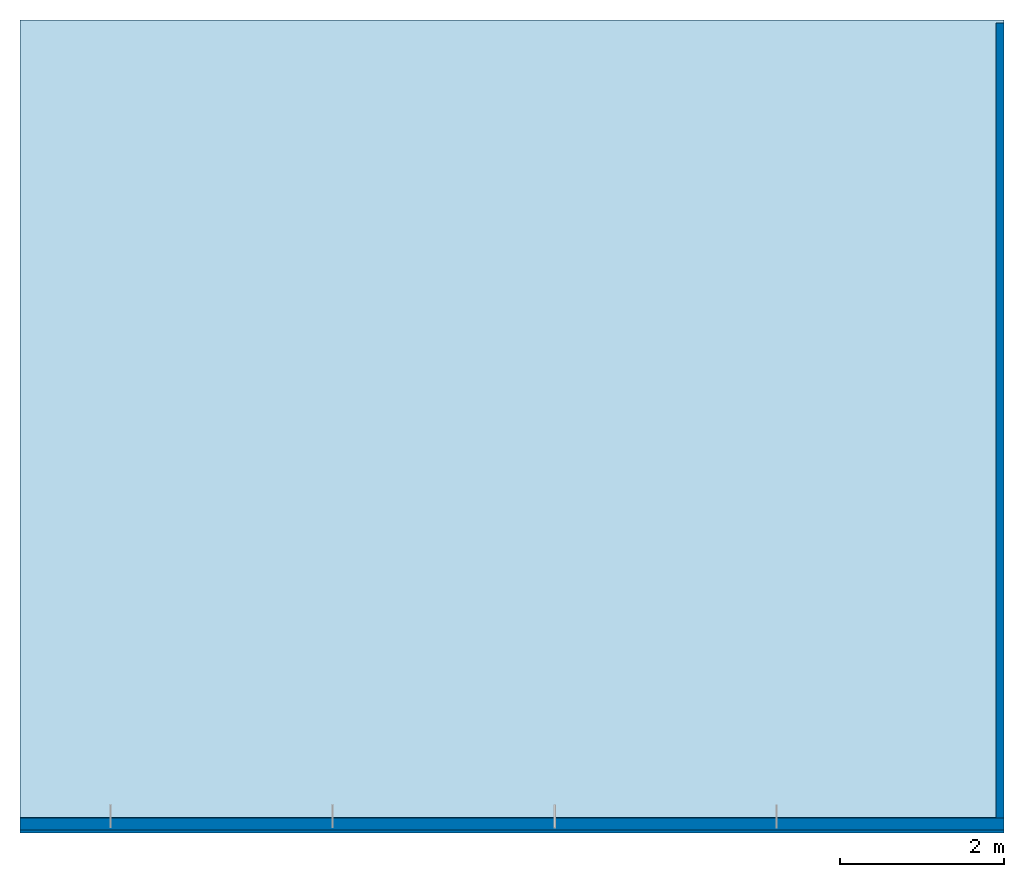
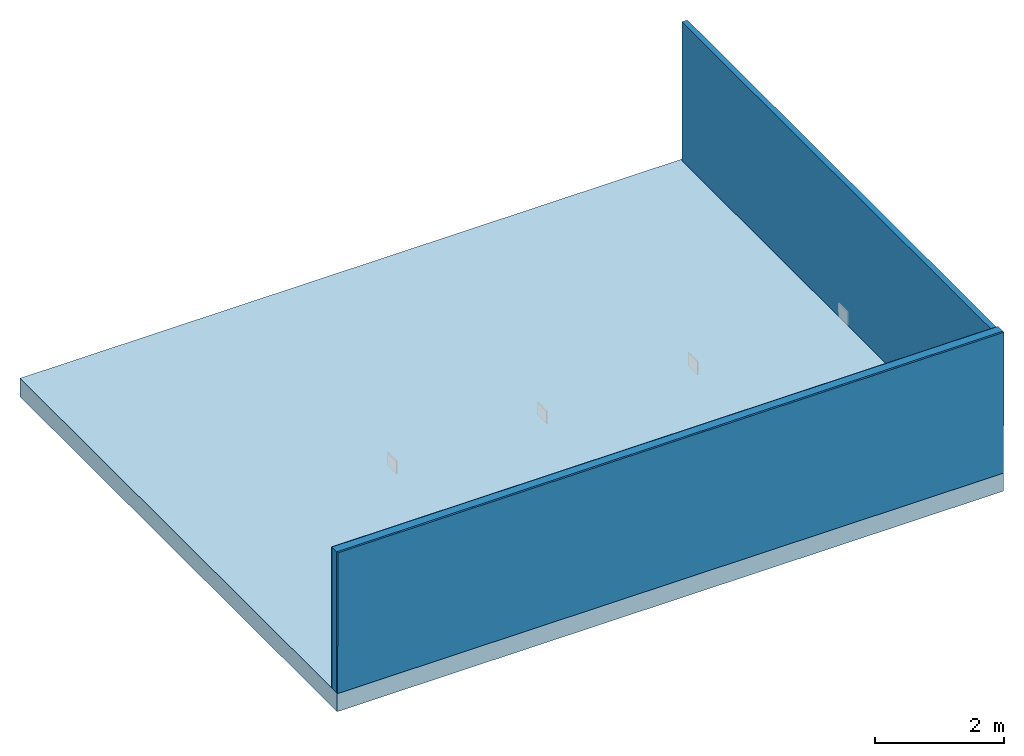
# One storey, part 1 of 2: 3 walls, 1 slab.
"""IFC2X3 building model written with IfcOpenShell, lengths in millimetres."""

from ifc_helpers import new_model, entity, si_unit, converted_unit, derived_unit, direction, frame, frame_2d, origin, origin_with_axes, place, context, subcontext, project, spatial, rectangle, extrude, faceted_brep, material, layer, layer_set, layer_usage, type_object, element, save


model = new_model("IFC2X3")

# Units and contexts
model_context = context("Model", 3, precision=0.01, world=origin(), true_north=direction((6.12303176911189e-17, 1.0)))
plan_context = context("Plan", 3, precision=1e-05, world=origin_with_axes())
body_context = subcontext(model_context, "Body", "Model", "MODEL_VIEW")
ifc_project = project(units=[converted_unit("PLANEANGLEUNIT", "DEGREE", entity("IfcPositiveLengthMeasure", 0.0174532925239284), si_unit("PLANEANGLEUNIT", "RADIAN"), dimensions=[0, 0, 0, 0, 0, 0, 0]), si_unit("AREAUNIT", "SQUARE_METRE"), si_unit("LENGTHUNIT", "METRE", prefix="MILLI"), si_unit("MASSUNIT", "GRAM", prefix="KILO"), si_unit("POWERUNIT", "WATT"), si_unit("PRESSUREUNIT", "PASCAL"), si_unit("FORCEUNIT", "NEWTON", prefix="KILO"), si_unit("ELECTRICVOLTAGEUNIT", "VOLT"), si_unit("ELECTRICCURRENTUNIT", "AMPERE"), si_unit("THERMODYNAMICTEMPERATUREUNIT", "DEGREE_CELSIUS"), si_unit("TIMEUNIT", "SECOND"), si_unit("VOLUMEUNIT", "CUBIC_METRE"), derived_unit("LINEARVELOCITYUNIT", [(si_unit("LENGTHUNIT", "METRE"), 1), (si_unit("TIMEUNIT", "SECOND"), -1)]), derived_unit("VOLUMETRICFLOWRATEUNIT", [(si_unit("VOLUMEUNIT", "CUBIC_METRE"), 1), (si_unit("TIMEUNIT", "SECOND"), -1)]), derived_unit("THERMALTRANSMITTANCEUNIT", [(si_unit("POWERUNIT", "WATT"), 1), (si_unit("THERMODYNAMICTEMPERATUREUNIT", "KELVIN"), -1), (si_unit("AREAUNIT", "SQUARE_METRE"), -1)]), derived_unit("SOUNDPRESSUREUNIT", [(si_unit("PRESSUREUNIT", "PASCAL"), 1)])], contexts=[model_context, plan_context])

# Site, building, storey
site_placement = place(None, frame((2314154.5009392, 1029894.10887124, 0.0), z_axis=(0.0, 0.0, 1.0), x_axis=(1.0, 0.0, 0.0)))
site = spatial("IfcSite", under=ifc_project, at=site_placement, Name="Default", CompositionType="ELEMENT")
building_placement = place(site_placement, origin_with_axes())
building = spatial("IfcBuilding", under=site, at=building_placement, CompositionType="ELEMENT")
storey_placement = place(building_placement, frame((0.0, 0.0, 15370.0), z_axis=(0.0, 0.0, 1.0), x_axis=(1.0, 0.0, 0.0)))
storey = spatial("IfcBuildingStorey", under=building, at=storey_placement, Name="XX - C +15,37 TA E2", CompositionType="ELEMENT", Elevation=15370.0)

# Slab
ifc_material_1 = material(Name="Værnes_Aluminium")
ifc_layer_1 = layer(ifc_material_1, 70.0)
ifc_material_2 = material(Name="_NSW Betong")
ifc_layer_2 = layer(ifc_material_2, 280.0)
ifc_layer_set_1 = layer_set([ifc_layer_1, ifc_layer_2], Name="Floor:NSW Generic 350 mm")
slab_type = type_object("IfcSlabType", Name="Floor:NSW Generic 350 mm", PredefinedType="FLOOR", material=ifc_layer_set_1)
slab_placement = place(storey_placement, frame((-4621.66605264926, -24613.4514097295, -350.0), z_axis=(0.0, 0.0, 1.0), x_axis=(1.0, 0.0, 0.0)))
element("IfcSlab", 1, at=slab_placement, inside=storey, type_object=slab_type, Name="Floor:NSW Generic 350 mm", ObjectType="Floor:NSW Generic 350 mm", PredefinedType="FLOOR", context=body_context, shape_type="Brep", body=[
    faceted_brep([(123782.652190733, 6099.18000000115, 350.0), (123782.652190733, 15964.0000000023, 350.0), (135746.999999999, 15964.0000000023, 350.0), (135746.999999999, 6099.18000000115, 350.0), (123782.652190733, 15964.0000000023, -1.02318153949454e-12), (123782.652190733, 6099.18000000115, -1.02318153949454e-12), (135746.999999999, 6099.18000000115, -5.6843418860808e-13), (135746.999999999, 15964.0000000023, -1.02318153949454e-12)], [[[0, 1, 2, 3]], [[4, 5, 6, 7]], [[3, 2, 7, 6]], [[2, 1, 4, 7]], [[1, 0, 5, 4]], [[0, 3, 6, 5]]], orient=[[False], [False], [False], [False], [False], [False]]),
])

# Walls
ifc_material_3 = material(Name="Existing - Bridget key")
ifc_layer_3 = layer(ifc_material_3, 150.0)
ifc_layer_set_2 = layer_set([ifc_layer_3], Name="Basic Wall:V_Existing 150mm")
wall_type_1 = type_object("IfcWallType", Name="Basic Wall:V_Existing 150mm", PredefinedType="STANDARD", material=ifc_layer_set_2)
wall_1_placement = place(storey_placement, frame((131125.33394735, -18424.4514097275, 0.0), z_axis=(0.0, 0.0, 1.0), x_axis=(-1.0, 0.0, 0.0)))
element("IfcWall", 2, at=wall_1_placement, inside=storey, type_object=wall_type_1, Name="Basic Wall:V_Existing 150mm", ObjectType="Basic Wall:V_Existing 150mm", context=body_context, shape_type="Brep", body=[
    faceted_brep([(11964.3478092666, 75.0000000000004, 0.0), (11964.3478092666, 75.0000000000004, 2678.18549280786), (0.0, 75.0000000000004, 2678.18549280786), (0.0, 75.0000000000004, 0.0), (0.0, -75.0000000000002, 2678.18549280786), (0.0, -75.0000000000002, 0.0), (11964.3478092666, -75.0000000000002, 2678.18549280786), (11964.3478092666, -75.0000000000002, 0.0)], [[[0, 1, 2, 3]], [[3, 2, 4, 5]], [[6, 7, 5, 4]], [[7, 0, 3, 5]], [[1, 6, 4, 2]], [[7, 6, 1, 0]]], orient=[[False], [False], [False], [False], [False], [False]]),
])
ifc_layer_4 = layer(ifc_material_3, 100.0)
ifc_layer_set_3 = layer_set([ifc_layer_4], Name="Basic Wall:V_Existing 100mm")
ifc_layer_usage = layer_usage(ifc_layer_set_3, "AXIS2", "NEGATIVE", 50.0)
wall_type_2 = type_object("IfcWallType", Name="Basic Wall:V_Existing 100mm", PredefinedType="STANDARD", material=ifc_layer_set_3)
wall_2_placement = place(storey_placement, frame((131075.33394735, -18349.4514097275, 0.0), z_axis=(0.0, 0.0, 1.0), x_axis=(0.0, 1.0, 0.0)))
element("IfcWallStandardCase", 3, at=wall_2_placement, inside=storey, type_object=wall_type_2, material=ifc_layer_usage, Name="Basic Wall:V_Existing 100mm", ObjectType="Basic Wall:V_Existing 100mm", context=body_context, shape_type="SweptSolid", body=[
    extrude(rectangle(XDim=9662.19949999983, YDim=100.000000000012, at=frame_2d((4831.09974999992, 0.0), x_axis=(-1.0, 0.0))), origin(), (0.0, 0.0, 1.0), 2636.59907172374),
])
ifc_material_4 = material(Name="Værnes_Glass 05_Silketrykket")
ifc_layer_5 = layer(ifc_material_4, 10.0)
ifc_material_5 = material(Name="Værnes_Malt")
ifc_layer_6 = layer(ifc_material_5, 2.0)
ifc_material_6 = material(Name="Værnes_Gipsplate")
ifc_layer_7 = layer(ifc_material_6, 13.0)
ifc_material_7 = material(Name="Værnes_Stålstender")
ifc_layer_8 = layer(ifc_material_7, 150.0)
ifc_layer_9 = layer(ifc_material_6, 13.0)
ifc_layer_10 = layer(ifc_material_5, 2.0)
ifc_layer_set_4 = layer_set([ifc_layer_5, ifc_layer_6, ifc_layer_7, ifc_layer_8, ifc_layer_9, ifc_layer_10], Name="Basic Wall:242_Værnes Innervegg 38_150mm")
wall_type_3 = type_object("IfcWallType", Name="Basic Wall:242_Værnes Innervegg 38_150mm", PredefinedType="STANDARD", material=ifc_layer_set_4)
wall_3_placement = place(storey_placement, frame((117110.333947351, -18439.4514097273, 0.0), z_axis=(0.0, 0.0, 1.0), x_axis=(1.0, 0.0, 0.0)))
element("IfcWall", 4, at=wall_3_placement, inside=storey, type_object=wall_type_3, Name="Basic Wall:242_Værnes Innervegg 38_150mm", ObjectType="Basic Wall:242_Værnes Innervegg 38_150mm", context=body_context, shape_type="Brep", body=[
    faceted_brep([(14014.9999999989, 95.0000000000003, 0.0), (14014.9999999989, 95.0000000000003, 2678.18549280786), (2050.65219073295, 95.0000000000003, 2678.18549280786), (2050.65219073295, 95.0000000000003, 0.0), (2050.65219073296, -95.0, 900.0), (2050.65219073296, -94.9999999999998, 2678.18549280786), (14014.9999999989, -94.9999999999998, 2678.18549280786), (14014.9999999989, -95.0, 900.0), (14014.9999999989, -85.0, 1.15463194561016e-14), (2050.65219073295, -85.0, 1.15463194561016e-14), (14014.9999999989, -85.0, 900.0), (2050.65219073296, -85.0, 900.0)], [[[0, 1, 2, 3]], [[4, 5, 6, 7]], [[8, 0, 3, 9]], [[1, 6, 5, 2]], [[7, 10, 11, 4]], [[10, 8, 9, 11]], [[8, 10, 7, 6, 1, 0]], [[5, 4, 11, 9, 3, 2]]], orient=[[False], [False], [False], [False], [False], [False], [False], [False]]),
])

save(model, "model.ifc")
